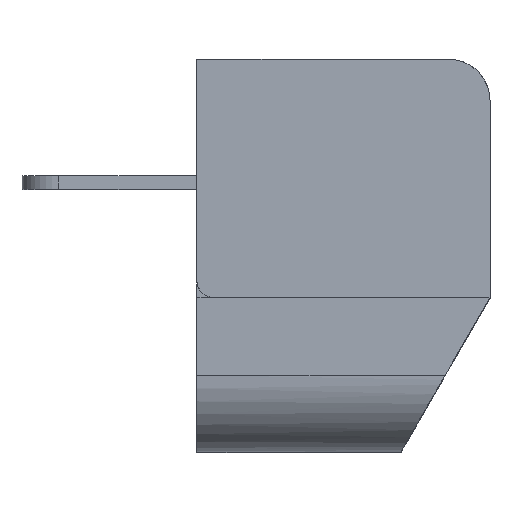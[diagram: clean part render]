
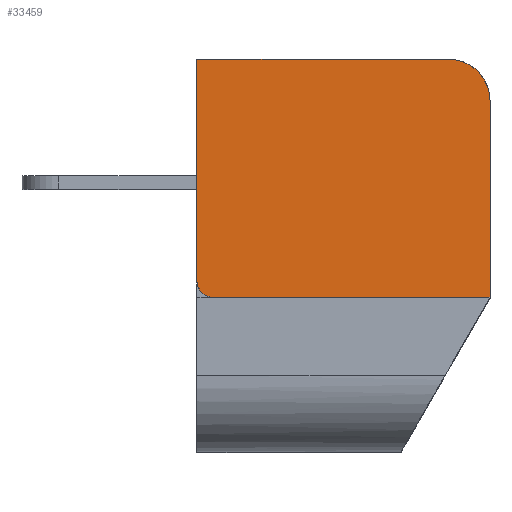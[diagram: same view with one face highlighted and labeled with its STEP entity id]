
A CAD part, top view. The second image highlights one B-rep face of the part: STEP entity #33459.
In plain terms, the highlighted planar face has unit normal (0, 0, 1).
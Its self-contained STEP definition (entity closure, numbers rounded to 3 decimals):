
#286=DIRECTION('',(0.,-1.,0.));
#287=VECTOR('',#286,11.8);
#288=CARTESIAN_POINT('',(17.6,11.8,0.));
#289=LINE('',#288,#287);
#1084=DIRECTION('',(0.,1.,0.));
#1085=VECTOR('',#1084,13.3);
#1086=CARTESIAN_POINT('',(0.,1.,0.));
#1087=LINE('',#1086,#1085);
#6643=DIRECTION('',(1.,0.,0.));
#6644=VECTOR('',#6643,15.1);
#6645=CARTESIAN_POINT('',(0.,14.3,0.));
#6646=LINE('',#6645,#6644);
#12593=DIRECTION('',(-1.,0.,0.));
#12594=VECTOR('',#12593,16.6);
#12595=CARTESIAN_POINT('',(17.6,0.,0.));
#12596=LINE('',#12595,#12594);
#12638=CARTESIAN_POINT('',(1.,1.,0.));
#12639=DIRECTION('',(0.,0.,1.));
#12640=DIRECTION('',(-1.,0.,0.));
#12641=AXIS2_PLACEMENT_3D('',#12638,#12639,#12640);
#12643=CARTESIAN_POINT('',(15.1,11.8,0.));
#12644=DIRECTION('',(0.,0.,1.));
#12645=DIRECTION('',(1.,0.,0.));
#12646=AXIS2_PLACEMENT_3D('',#12643,#12644,#12645);
#17703=CARTESIAN_POINT('',(0.,1.,0.));
#17704=CARTESIAN_POINT('',(0.,14.3,0.));
#17705=VERTEX_POINT('',#17703);
#17706=VERTEX_POINT('',#17704);
#17707=CARTESIAN_POINT('',(15.1,14.3,0.));
#17708=VERTEX_POINT('',#17707);
#17709=CARTESIAN_POINT('',(17.6,11.8,0.));
#17710=VERTEX_POINT('',#17709);
#17711=CARTESIAN_POINT('',(17.6,0.,0.));
#17712=VERTEX_POINT('',#17711);
#17713=CARTESIAN_POINT('',(1.,0.,0.));
#17714=VERTEX_POINT('',#17713);
#33445=CARTESIAN_POINT('',(8.8,7.15,0.));
#33446=DIRECTION('',(0.,0.,1.));
#33447=DIRECTION('',(1.,0.,0.));
#33448=AXIS2_PLACEMENT_3D('',#33445,#33446,#33447);
#33449=PLANE('',#33448);
#33450=ORIENTED_EDGE('',*,*,#33414,.F.);
#33451=ORIENTED_EDGE('',*,*,#21681,.T.);
#33452=ORIENTED_EDGE('',*,*,#27299,.T.);
#33454=ORIENTED_EDGE('',*,*,#33453,.F.);
#33455=ORIENTED_EDGE('',*,*,#20598,.T.);
#33456=ORIENTED_EDGE('',*,*,#33397,.T.);
#33457=EDGE_LOOP('',(#33450,#33451,#33452,#33454,#33455,#33456));
#33458=FACE_OUTER_BOUND('',#33457,.F.);
#33459=ADVANCED_FACE('',(#33458),#33449,.T.);
#12642=CIRCLE('',#12641,1.);
#12647=CIRCLE('',#12646,2.5);
#20598=EDGE_CURVE('',#17710,#17712,#289,.T.);
#21681=EDGE_CURVE('',#17705,#17706,#1087,.T.);
#27299=EDGE_CURVE('',#17706,#17708,#6646,.T.);
#33397=EDGE_CURVE('',#17712,#17714,#12596,.T.);
#33414=EDGE_CURVE('',#17705,#17714,#12642,.T.);
#33453=EDGE_CURVE('',#17710,#17708,#12647,.T.);
